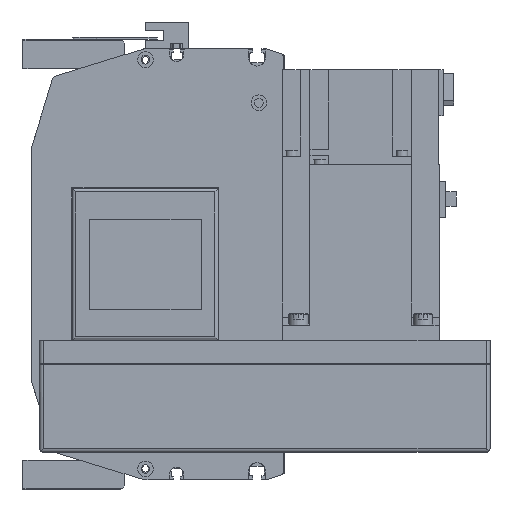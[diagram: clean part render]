
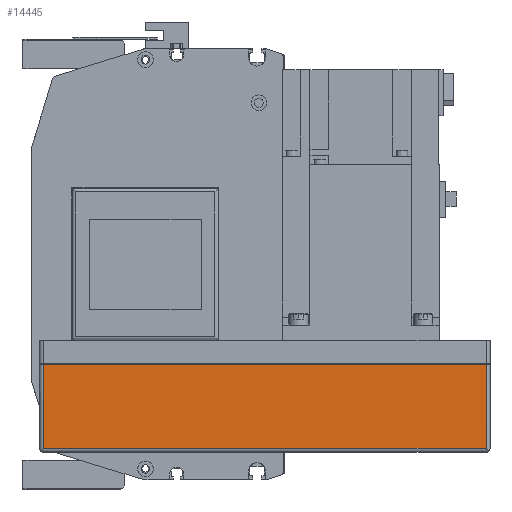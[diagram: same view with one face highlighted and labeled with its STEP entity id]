
A CAD part, left-side view. The second image highlights one B-rep face of the part: STEP entity #14445.
In plain terms, the highlighted planar face has unit normal (-1, 0, 0) as drawn and (0, 1, 0) by its records, which use the part's own axes.
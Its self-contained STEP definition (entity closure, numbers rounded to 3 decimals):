
#2460=ORIENTED_EDGE('',*,*,#5890,.F.);
#2461=ORIENTED_EDGE('',*,*,#5830,.T.);
#2462=ORIENTED_EDGE('',*,*,#5891,.F.);
#2463=ORIENTED_EDGE('',*,*,#5825,.F.);
#5825=EDGE_CURVE('',#7686,#7687,#9180,.T.);
#5830=EDGE_CURVE('',#7692,#7691,#9182,.T.);
#5890=EDGE_CURVE('',#7692,#7686,#9225,.T.);
#5891=EDGE_CURVE('',#7687,#7691,#9226,.T.);
#7686=VERTEX_POINT('',#22469);
#7687=VERTEX_POINT('',#22471);
#7691=VERTEX_POINT('',#22480);
#7692=VERTEX_POINT('',#22482);
#9180=LINE('',#22470,#10525);
#9182=LINE('',#22481,#10527);
#9225=LINE('',#22604,#10570);
#9226=LINE('',#22605,#10571);
#10525=VECTOR('',#17954,1000.);
#10527=VECTOR('',#17964,1000.);
#10570=VECTOR('',#18085,1000.);
#10571=VECTOR('',#18086,1000.);
#11724=EDGE_LOOP('',(#2460,#2461,#2462,#2463));
#12853=FACE_BOUND('',#11724,.T.);
#13820=PLANE('',#15509);
#14445=ADVANCED_FACE('',(#12853),#13820,.T.);
#15509=AXIS2_PLACEMENT_3D('',#22603,#18083,#18084);
#17954=DIRECTION('',(0.,0.,1.));
#17964=DIRECTION('',(0.,0.,1.));
#18083=DIRECTION('',(0.,1.,0.));
#18084=DIRECTION('',(0.,0.,1.));
#18085=DIRECTION('',(1.,0.,0.));
#18086=DIRECTION('',(-1.,0.,0.));
#22469=CARTESIAN_POINT('',(-2.,54.,-55.));
#22470=CARTESIAN_POINT('',(-2.,54.,-57.));
#22471=CARTESIAN_POINT('',(-2.,54.,-12.));
#22480=CARTESIAN_POINT('',(-228.,54.,-12.));
#22481=CARTESIAN_POINT('',(-228.,54.,-57.));
#22482=CARTESIAN_POINT('',(-228.,54.,-55.));
#22603=CARTESIAN_POINT('',(-2.,54.,-57.));
#22604=CARTESIAN_POINT('',(-230.,54.,-55.));
#22605=CARTESIAN_POINT('',(-2.,54.,-12.));
